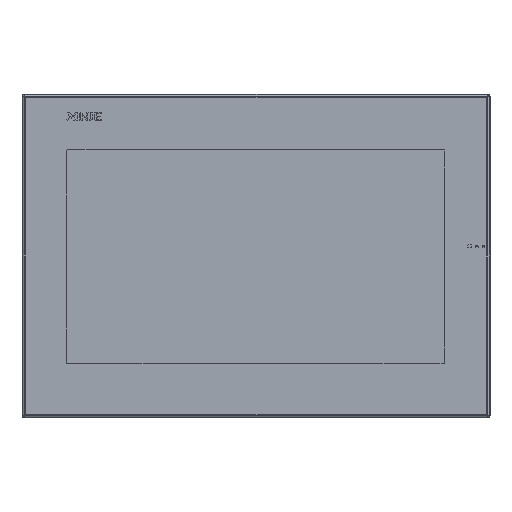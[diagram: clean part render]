
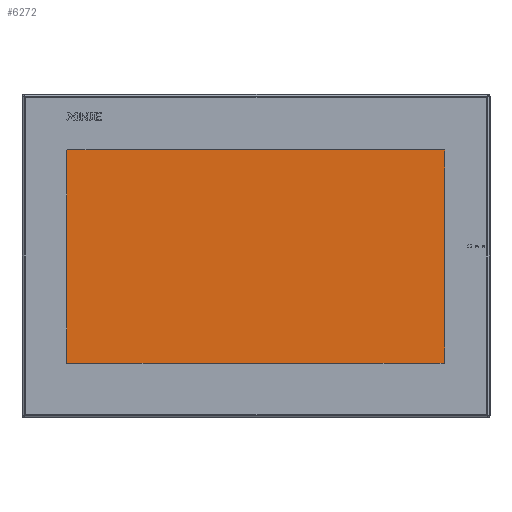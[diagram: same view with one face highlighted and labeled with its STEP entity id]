
A CAD part, front view. The second image highlights one B-rep face of the part: STEP entity #6272.
In plain terms, the highlighted planar face has unit normal (0, -1, 0).
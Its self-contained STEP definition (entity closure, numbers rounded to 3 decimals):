
#6272=ADVANCED_FACE('',(#12169),#103662,.T.);
#12169=FACE_OUTER_BOUND('',#18364,.T.);
#18364=EDGE_LOOP('',(#52325));
#52325=ORIENTED_EDGE('',*,*,#69374,.T.);
#69374=EDGE_CURVE('',#97752,#97752,#86399,.T.);
#86399=B_SPLINE_CURVE_WITH_KNOTS('',1,(#197663,#197664,#197665,#197666,
#197667),.UNSPECIFIED.,.T.,.F.,(2,1,1,1,2),(0.,223.743,350.072,
573.815,700.144),.UNSPECIFIED.);
#97752=VERTEX_POINT('',#197662);
#103662=PLANE('',#108774);
#108774=AXIS2_PLACEMENT_3D('',#197661,#113802,$);
#113802=DIRECTION('',(0.,-1.,0.));
#197661=CARTESIAN_POINT('',(-426.988,-237.086,152.432));
#197662=CARTESIAN_POINT('',(-404.554,-237.086,13.409));
#197663=CARTESIAN_POINT('',(-404.554,-237.086,13.409));
#197664=CARTESIAN_POINT('',(-180.811,-237.086,13.409));
#197665=CARTESIAN_POINT('',(-180.811,-237.086,139.739));
#197666=CARTESIAN_POINT('',(-404.554,-237.086,139.739));
#197667=CARTESIAN_POINT('',(-404.554,-237.086,13.409));
